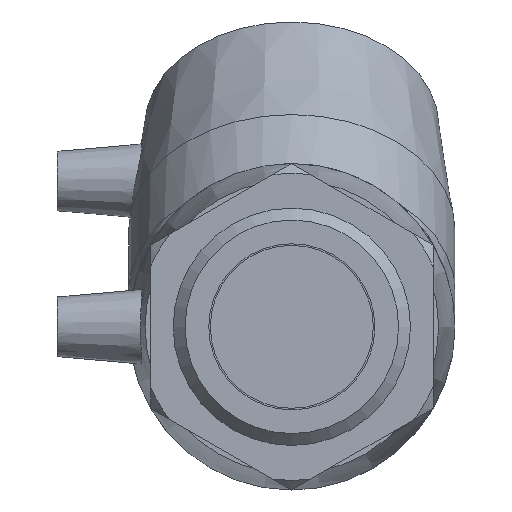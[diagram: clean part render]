
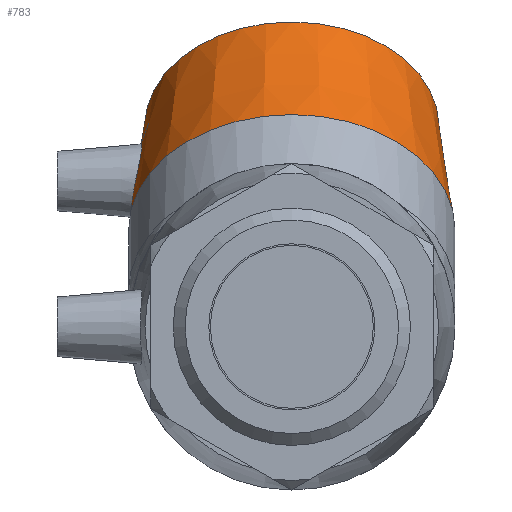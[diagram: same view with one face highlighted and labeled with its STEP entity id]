
A CAD part, left-side view. The second image highlights one B-rep face of the part: STEP entity #783.
In plain terms, the highlighted conical face has half-angle 6.323 degrees and reference radius 38.95 mm.
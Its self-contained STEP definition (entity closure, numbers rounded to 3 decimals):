
#15=B_SPLINE_CURVE_WITH_KNOTS('',3,(#1400,#1401,#1402,#1403,#1404,#1405,
#1406,#1407,#1408,#1409,#1410,#1411,#1412,#1413,#1414,#1415,#1416,#1417,
#1418,#1419,#1420,#1421,#1422,#1423,#1424,#1425,#1426,#1427,#1428,#1429,
#1430,#1431,#1432,#1433),.UNSPECIFIED.,.T.,.F.,(4,2,2,2,2,2,2,2,2,2,2,2,
2,2,2,2,4),(0.,0.343,0.687,1.032,1.378,
1.723,2.069,2.412,2.756,3.12,
3.484,3.842,4.199,4.556,4.913,
5.278,5.642),.UNSPECIFIED.);
#141=FACE_BOUND('',#285,.T.);
#142=FACE_BOUND('',#286,.T.);
#202=FACE_OUTER_BOUND('',#284,.T.);
#284=EDGE_LOOP('',(#689));
#285=EDGE_LOOP('',(#690));
#286=EDGE_LOOP('',(#691));
#347=CIRCLE('',#874,41.);
#351=CIRCLE('',#885,36.9);
#420=VERTEX_POINT('',#1395);
#421=VERTEX_POINT('',#1399);
#425=VERTEX_POINT('',#1445);
#513=EDGE_CURVE('',#420,#420,#347,.T.);
#515=EDGE_CURVE('',#421,#421,#15,.T.);
#519=EDGE_CURVE('',#425,#425,#351,.T.);
#689=ORIENTED_EDGE('',*,*,#513,.F.);
#690=ORIENTED_EDGE('',*,*,#515,.T.);
#691=ORIENTED_EDGE('',*,*,#519,.T.);
#733=CONICAL_SURFACE('',#886,38.95,6.323);
#783=ADVANCED_FACE('',(#202,#141,#142),#733,.T.);
#874=AXIS2_PLACEMENT_3D('',#1396,#1076,#1077);
#885=AXIS2_PLACEMENT_3D('',#1446,#1098,#1099);
#886=AXIS2_PLACEMENT_3D('',#1447,#1100,#1101);
#1076=DIRECTION('center_axis',(-0.707,0.,
-0.707));
#1077=DIRECTION('ref_axis',(-0.707,0.,0.707));
#1098=DIRECTION('center_axis',(-0.707,0.,
-0.707));
#1099=DIRECTION('ref_axis',(-0.707,0.,0.707));
#1100=DIRECTION('center_axis',(-0.707,0.,
-0.707));
#1101=DIRECTION('ref_axis',(0.,1.,0.));
#1395=CARTESIAN_POINT('',(24.333,41.,24.333));
#1396=CARTESIAN_POINT('Origin',(24.333,0.,
24.333));
#1399=CARTESIAN_POINT('',(43.47,37.902,30.261));
#1400=CARTESIAN_POINT('Ctrl Pts',(43.47,37.902,30.261));
#1401=CARTESIAN_POINT('Ctrl Pts',(44.253,37.78,31.087));
#1402=CARTESIAN_POINT('Ctrl Pts',(44.927,37.707,32.127));
#1403=CARTESIAN_POINT('Ctrl Pts',(45.804,37.678,34.393));
#1404=CARTESIAN_POINT('Ctrl Pts',(46.006,37.718,35.619));
#1405=CARTESIAN_POINT('Ctrl Pts',(45.963,37.824,37.913));
#1406=CARTESIAN_POINT('Ctrl Pts',(45.714,37.897,39.136));
#1407=CARTESIAN_POINT('Ctrl Pts',(44.754,38.006,41.386));
#1408=CARTESIAN_POINT('Ctrl Pts',(44.042,38.039,42.414));
#1409=CARTESIAN_POINT('Ctrl Pts',(42.414,38.039,44.042));
#1410=CARTESIAN_POINT('Ctrl Pts',(41.386,38.006,44.754));
#1411=CARTESIAN_POINT('Ctrl Pts',(39.136,37.897,45.714));
#1412=CARTESIAN_POINT('Ctrl Pts',(37.913,37.824,45.963));
#1413=CARTESIAN_POINT('Ctrl Pts',(35.619,37.718,46.006));
#1414=CARTESIAN_POINT('Ctrl Pts',(34.393,37.678,45.804));
#1415=CARTESIAN_POINT('Ctrl Pts',(32.127,37.707,44.927));
#1416=CARTESIAN_POINT('Ctrl Pts',(31.087,37.78,44.253));
#1417=CARTESIAN_POINT('Ctrl Pts',(29.385,38.032,42.639));
#1418=CARTESIAN_POINT('Ctrl Pts',(28.635,38.235,41.578));
#1419=CARTESIAN_POINT('Ctrl Pts',(27.643,38.714,39.252));
#1420=CARTESIAN_POINT('Ctrl Pts',(27.4,38.988,37.985));
#1421=CARTESIAN_POINT('Ctrl Pts',(27.399,39.457,35.626));
#1422=CARTESIAN_POINT('Ctrl Pts',(27.631,39.686,34.374));
#1423=CARTESIAN_POINT('Ctrl Pts',(28.588,40.003,32.06));
#1424=CARTESIAN_POINT('Ctrl Pts',(29.313,40.088,30.997));
#1425=CARTESIAN_POINT('Ctrl Pts',(30.997,40.088,29.313));
#1426=CARTESIAN_POINT('Ctrl Pts',(32.06,40.003,28.588));
#1427=CARTESIAN_POINT('Ctrl Pts',(34.374,39.686,27.631));
#1428=CARTESIAN_POINT('Ctrl Pts',(35.626,39.457,27.399));
#1429=CARTESIAN_POINT('Ctrl Pts',(37.985,38.988,27.4));
#1430=CARTESIAN_POINT('Ctrl Pts',(39.252,38.714,27.643));
#1431=CARTESIAN_POINT('Ctrl Pts',(41.578,38.235,28.635));
#1432=CARTESIAN_POINT('Ctrl Pts',(42.639,38.032,29.385));
#1433=CARTESIAN_POINT('Ctrl Pts',(43.47,37.902,30.261));
#1445=CARTESIAN_POINT('',(50.496,36.9,50.496));
#1446=CARTESIAN_POINT('Origin',(50.496,0.,50.496));
#1447=CARTESIAN_POINT('Origin',(37.414,0.,
37.414));
